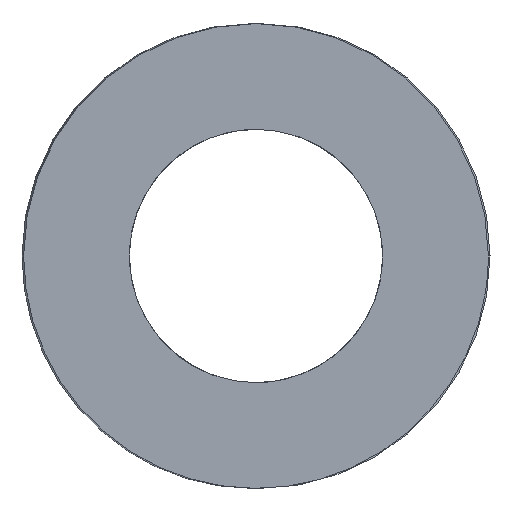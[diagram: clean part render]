
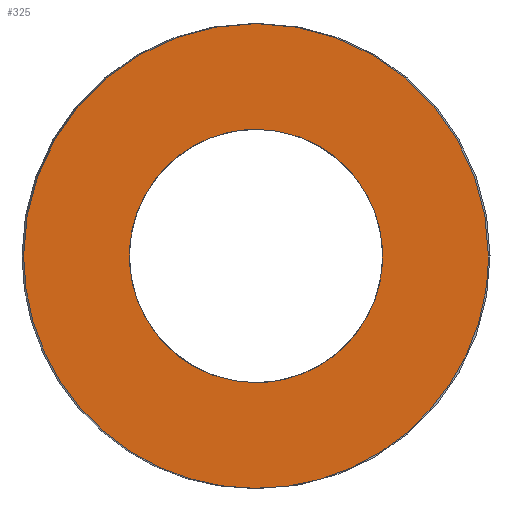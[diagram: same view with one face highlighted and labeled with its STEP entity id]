
A CAD part, left-side view. The second image highlights one B-rep face of the part: STEP entity #325.
In plain terms, the highlighted planar face has unit normal (-1, 0, 0).
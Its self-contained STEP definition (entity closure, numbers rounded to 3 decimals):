
#63=CARTESIAN_POINT('Vertex',(0.,24.4,0.)) ;
#89=CARTESIAN_POINT('Vertex',(0.,-24.4,0.)) ;
#93=CARTESIAN_POINT('Control Point',(0.,24.4,0.)) ;
#94=CARTESIAN_POINT('Control Point',(0.,24.4,-3.833)) ;
#95=CARTESIAN_POINT('Control Point',(0.,23.647,-7.665)) ;
#96=CARTESIAN_POINT('Control Point',(0.,22.142,-11.301)) ;
#97=CARTESIAN_POINT('Control Point',(0.,17.786,-17.786)) ;
#98=CARTESIAN_POINT('Control Point',(0.,11.301,-22.142)) ;
#99=CARTESIAN_POINT('Control Point',(0.,7.665,-23.647)) ;
#100=CARTESIAN_POINT('Control Point',(0.,0.,-25.153)) ;
#101=CARTESIAN_POINT('Control Point',(0.,-7.665,-23.647)) ;
#102=CARTESIAN_POINT('Control Point',(0.,-11.301,-22.142)) ;
#103=CARTESIAN_POINT('Control Point',(0.,-17.786,-17.786)) ;
#104=CARTESIAN_POINT('Control Point',(0.,-22.142,-11.301)) ;
#105=CARTESIAN_POINT('Control Point',(0.,-23.647,-7.665)) ;
#106=CARTESIAN_POINT('Control Point',(0.,-24.4,-3.833)) ;
#107=CARTESIAN_POINT('Control Point',(0.,-24.4,0.)) ;
#121=CARTESIAN_POINT('Axis2P3D Location',(0.,0.,0.)) ;
#256=CARTESIAN_POINT('Axis2P3D Location',(0.,12.2,0.)) ;
#266=CARTESIAN_POINT('Control Point',(0.,0.,-13.3)) ;
#267=CARTESIAN_POINT('Control Point',(0.,1.251,-13.3)) ;
#268=CARTESIAN_POINT('Control Point',(0.,2.501,-13.153)) ;
#269=CARTESIAN_POINT('Control Point',(0.,3.729,-12.859)) ;
#270=CARTESIAN_POINT('Control Point',(0.,6.092,-11.988)) ;
#271=CARTESIAN_POINT('Control Point',(0.,8.189,-10.593)) ;
#272=CARTESIAN_POINT('Control Point',(0.,9.15,-9.774)) ;
#273=CARTESIAN_POINT('Control Point',(0.,10.862,-7.927)) ;
#274=CARTESIAN_POINT('Control Point',(0.,12.099,-5.734)) ;
#275=CARTESIAN_POINT('Control Point',(0.,12.585,-4.569)) ;
#276=CARTESIAN_POINT('Control Point',(0.,13.275,-2.146)) ;
#277=CARTESIAN_POINT('Control Point',(0.,13.384,0.37)) ;
#278=CARTESIAN_POINT('Control Point',(0.,13.289,1.628)) ;
#279=CARTESIAN_POINT('Control Point',(0.,12.807,4.1)) ;
#280=CARTESIAN_POINT('Control Point',(0.,11.764,6.393)) ;
#281=CARTESIAN_POINT('Control Point',(0.,11.11,7.472)) ;
#282=CARTESIAN_POINT('Control Point',(0.,9.56,9.457)) ;
#283=CARTESIAN_POINT('Control Point',(0.,7.591,11.029)) ;
#284=CARTESIAN_POINT('Control Point',(0.,6.519,11.694)) ;
#285=CARTESIAN_POINT('Control Point',(0.,4.601,12.592)) ;
#286=CARTESIAN_POINT('Control Point',(0.,2.551,13.095)) ;
#287=CARTESIAN_POINT('Control Point',(0.,1.706,13.232)) ;
#288=CARTESIAN_POINT('Control Point',(0.,0.853,13.3)) ;
#289=CARTESIAN_POINT('Control Point',(0.,0.,13.3)) ;
#290=CARTESIAN_POINT('Vertex',(0.,0.,-13.3)) ;
#292=CARTESIAN_POINT('Vertex',(0.,0.,13.3)) ;
#296=CARTESIAN_POINT('Control Point',(0.,0.,13.3)) ;
#297=CARTESIAN_POINT('Control Point',(0.,-1.251,13.3)) ;
#298=CARTESIAN_POINT('Control Point',(0.,-2.501,13.153)) ;
#299=CARTESIAN_POINT('Control Point',(0.,-3.729,12.859)) ;
#300=CARTESIAN_POINT('Control Point',(0.,-6.092,11.988)) ;
#301=CARTESIAN_POINT('Control Point',(0.,-8.189,10.593)) ;
#302=CARTESIAN_POINT('Control Point',(0.,-9.15,9.774)) ;
#303=CARTESIAN_POINT('Control Point',(0.,-10.862,7.927)) ;
#304=CARTESIAN_POINT('Control Point',(0.,-12.099,5.734)) ;
#305=CARTESIAN_POINT('Control Point',(0.,-12.585,4.569)) ;
#306=CARTESIAN_POINT('Control Point',(0.,-13.275,2.146)) ;
#307=CARTESIAN_POINT('Control Point',(0.,-13.384,-0.37)) ;
#308=CARTESIAN_POINT('Control Point',(0.,-13.289,-1.628)) ;
#309=CARTESIAN_POINT('Control Point',(0.,-12.807,-4.1)) ;
#310=CARTESIAN_POINT('Control Point',(0.,-11.764,-6.393)) ;
#311=CARTESIAN_POINT('Control Point',(0.,-11.11,-7.472)) ;
#312=CARTESIAN_POINT('Control Point',(0.,-9.56,-9.457)) ;
#313=CARTESIAN_POINT('Control Point',(0.,-7.591,-11.029)) ;
#314=CARTESIAN_POINT('Control Point',(0.,-6.519,-11.694)) ;
#315=CARTESIAN_POINT('Control Point',(0.,-4.601,-12.592)) ;
#316=CARTESIAN_POINT('Control Point',(0.,-2.551,-13.095)) ;
#317=CARTESIAN_POINT('Control Point',(0.,-1.706,-13.232)) ;
#318=CARTESIAN_POINT('Control Point',(0.,-0.853,-13.3)) ;
#319=CARTESIAN_POINT('Control Point',(0.,0.,-13.3)) ;
#122=DIRECTION('Axis2P3D Direction',(1.,-0.,0.)) ;
#257=DIRECTION('Axis2P3D Direction',(-1.,0.,0.)) ;
#258=DIRECTION('Axis2P3D XDirection',(0.,1.,0.)) ;
#123=AXIS2_PLACEMENT_3D('Circle Axis2P3D',#121,#122,$) ;
#259=AXIS2_PLACEMENT_3D('Plane Axis2P3D',#256,#257,#258) ;
#262=ORIENTED_EDGE('',*,*,#108,.T.) ;
#263=ORIENTED_EDGE('',*,*,#125,.T.) ;
#322=ORIENTED_EDGE('',*,*,#294,.T.) ;
#323=ORIENTED_EDGE('',*,*,#320,.T.) ;
#324=FACE_BOUND('',#321,.T.) ;
#325=ADVANCED_FACE('392-B50-102',(#264,#324),#260,.T.) ;
#92=B_SPLINE_CURVE_WITH_KNOTS('',5,(#93,#94,#95,#96,#97,#98,#99,#100,#101,#102,#103,#104,#105,#106,#107),.UNSPECIFIED.,.F.,.U.,(6,3,3,3,6),(-38.327,-19.164,0.,19.164,38.327),.UNSPECIFIED.) ;
#265=B_SPLINE_CURVE_WITH_KNOTS('',5,(#266,#267,#268,#269,#270,#271,#272,#273,#274,#275,#276,#277,#278,#279,#280,#281,#282,#283,#284,#285,#286,#287,#288,#289),.UNSPECIFIED.,.F.,.U.,(6,3,3,3,3,3,3,6),(0.,8.843,17.686,26.53,35.373,44.216,53.059,59.09),.UNSPECIFIED.) ;
#295=B_SPLINE_CURVE_WITH_KNOTS('',5,(#296,#297,#298,#299,#300,#301,#302,#303,#304,#305,#306,#307,#308,#309,#310,#311,#312,#313,#314,#315,#316,#317,#318,#319),.UNSPECIFIED.,.F.,.U.,(6,3,3,3,3,3,3,6),(0.,8.843,17.686,26.53,35.373,44.216,53.059,59.09),.UNSPECIFIED.) ;
#124=CIRCLE('generated circle',#123,24.4) ;
#108=EDGE_CURVE('',#64,#90,#92,.T.) ;
#125=EDGE_CURVE('',#90,#64,#124,.F.) ;
#294=EDGE_CURVE('',#291,#293,#265,.T.) ;
#320=EDGE_CURVE('',#293,#291,#295,.T.) ;
#261=EDGE_LOOP('',(#262,#263)) ;
#321=EDGE_LOOP('',(#322,#323)) ;
#264=FACE_OUTER_BOUND('',#261,.T.) ;
#260=PLANE('Plane',#259) ;
#64=VERTEX_POINT('',#63) ;
#90=VERTEX_POINT('',#89) ;
#291=VERTEX_POINT('',#290) ;
#293=VERTEX_POINT('',#292) ;
